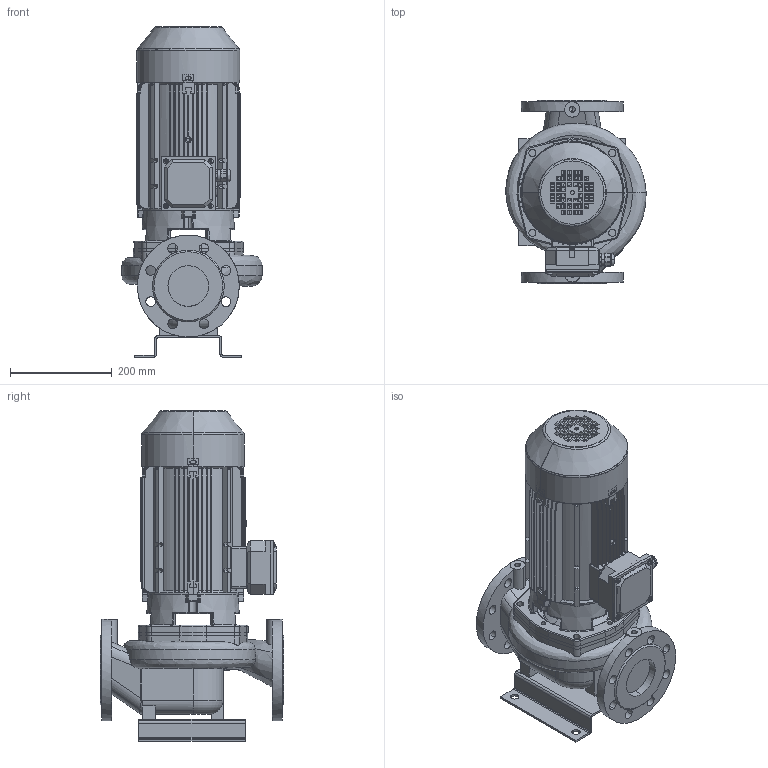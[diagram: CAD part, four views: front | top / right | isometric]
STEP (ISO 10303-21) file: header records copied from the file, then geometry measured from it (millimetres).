
FILE_DESCRIPTION(('STEP AP214'),'1');
FILE_NAME('export.stp','2018-05-29T07:33:03',(' '),(' '),'Spatial InterOp 3D',' ',' ');
FILE_SCHEMA(('AUTOMOTIVE_DESIGN { 1 0 10303 214 1 1 1 1 }'));
Length unit declared in the file: millimetre
Products named in the file (31): W_L80A422_KP; V_TLL65AB80A1102; V_PPL80A; V_JALKA35973; 160027; 160005; KP100F19_4_22; D25_D62_B17_6305; D25_D62_B17_6305_P1; D25_D62_B17_6305_P2; D25_D62_B17_6305_P3; 6305; M5x8_DIN; DIN_7985-M5X8; 160141; M5x12_DIN; DIN_7985-M5X12; 160137; 160138; 160139; 160140; Koura_Ale_M5; Plug_Blind_M20; Sealing_Plug_M20; plain_washer_grade_a_din_Washer_; 160060___; 160059___; 160136
Assembly tree (33 placements, depth 5):
  W_L80A422_KP
    V_TLL65AB80A1102
    V_PPL80A
    V_JALKA35973
    KP100F19_4_22
      160027
        160005
      6305
        D25_D62_B17_6305
          D25_D62_B17_6305_P1
          D25_D62_B17_6305_P2
          D25_D62_B17_6305_P3
      160141
        M5x8_DIN
          DIN_7985-M5X8
        M5x12_DIN
          DIN_7985-M5X12
        M5x12_DIN
          DIN_7985-M5X12
        M5x12_DIN
          DIN_7985-M5X12
        M5x12_DIN
          DIN_7985-M5X12
        160137
        160138
        160139
        160140
        Koura_Ale_M5
        Plug_Blind_M20
        Sealing_Plug_M20
        plain_washer_grade_a_din_Washer_
      160060___
      160059___
      160136
Bounding box: 275.52 x 360 x 649.5 mm (x, y, z)
Volume: 8652170.3 mm3; surface area: 1757667.3 mm2
Topology: 24 solids, 24 shells, 2500 faces, 6727 edges, 4267 vertices
Faces by surface type: plane 1052, cylinder 784, bspline 270, torus 232, cone 147, sphere 15
Entity records: 100052 total; most frequent: CARTESIAN_POINT 35187, ORIENTED_EDGE 13074, DIRECTION 11964, EDGE_CURVE 6537, AXIS2_PLACEMENT_3D 4481, VERTEX_POINT 4171, LINE 3002, VECTOR 3002
